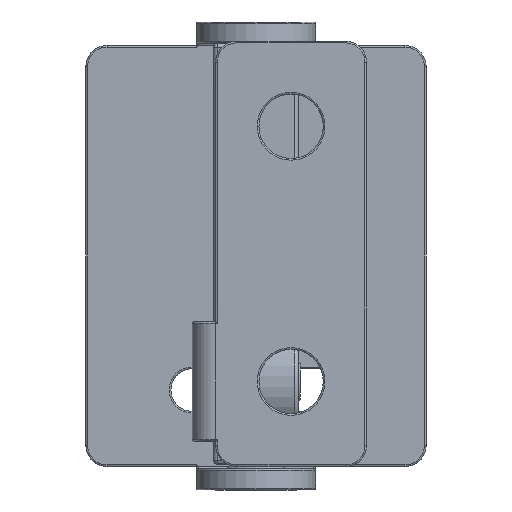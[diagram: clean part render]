
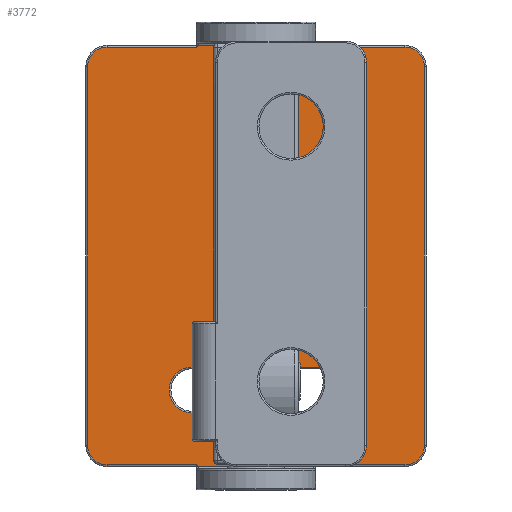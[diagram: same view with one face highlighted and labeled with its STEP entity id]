
A CAD part, front view. The second image highlights one B-rep face of the part: STEP entity #3772.
In plain terms, the highlighted planar face has unit normal (0, -1, 0).
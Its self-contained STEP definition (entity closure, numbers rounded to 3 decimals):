
#81=FACE_BOUND('',#577,.T.);
#82=FACE_BOUND('',#578,.T.);
#127=PLANE('',#4198);
#319=FACE_OUTER_BOUND('',#576,.T.);
#576=EDGE_LOOP('',(#2782,#2783,#2784,#2785,#2786,#2787,#2788,#2789,#2790,
#2791,#2792,#2793,#2794,#2795,#2796,#2797,#2798,#2799,#2800,#2801,#2802,
#2803,#2804,#2805));
#577=EDGE_LOOP('',(#2806,#2807,#2808,#2809));
#578=EDGE_LOOP('',(#2810,#2811,#2812,#2813));
#777=LINE('',#5957,#1036);
#780=LINE('',#5974,#1039);
#782=LINE('',#5987,#1041);
#786=LINE('',#6118,#1045);
#839=LINE('',#6321,#1098);
#842=LINE('',#6338,#1101);
#844=LINE('',#6351,#1103);
#847=LINE('',#6474,#1106);
#858=LINE('',#6564,#1117);
#860=LINE('',#6581,#1119);
#862=LINE('',#6588,#1121);
#864=LINE('',#6594,#1123);
#865=LINE('',#6596,#1124);
#866=LINE('',#6597,#1125);
#867=LINE('',#6599,#1126);
#868=LINE('',#6601,#1127);
#869=LINE('',#6603,#1128);
#870=LINE('',#6604,#1129);
#871=LINE('',#6607,#1130);
#872=LINE('',#6611,#1131);
#1036=VECTOR('',#4599,10.);
#1039=VECTOR('',#4618,10.);
#1041=VECTOR('',#4632,10.);
#1045=VECTOR('',#4648,10.);
#1098=VECTOR('',#4851,10.);
#1101=VECTOR('',#4870,10.);
#1103=VECTOR('',#4884,10.);
#1106=VECTOR('',#4899,10.);
#1117=VECTOR('',#4956,10.);
#1119=VECTOR('',#4976,10.);
#1121=VECTOR('',#4986,10.);
#1123=VECTOR('',#4994,10.);
#1124=VECTOR('',#4995,10.);
#1125=VECTOR('',#4996,10.);
#1126=VECTOR('',#4997,10.);
#1127=VECTOR('',#4998,10.);
#1128=VECTOR('',#4999,10.);
#1129=VECTOR('',#5000,10.);
#1130=VECTOR('',#5001,10.);
#1131=VECTOR('',#5004,10.);
#1300=CIRCLE('',#4050,2.3);
#1304=CIRCLE('',#4056,2.3);
#1307=CIRCLE('',#4060,0.2);
#1308=CIRCLE('',#4061,0.2);
#1361=CIRCLE('',#4145,2.3);
#1365=CIRCLE('',#4151,2.3);
#1368=CIRCLE('',#4155,0.2);
#1369=CIRCLE('',#4156,0.2);
#1385=CIRCLE('',#4187,2.7);
#1390=CIRCLE('',#4194,2.7);
#1391=CIRCLE('',#4199,2.7);
#1392=CIRCLE('',#4200,2.7);
#1582=VERTEX_POINT('',#5954);
#1583=VERTEX_POINT('',#5956);
#1586=VERTEX_POINT('',#5964);
#1588=VERTEX_POINT('',#5970);
#1590=VERTEX_POINT('',#5976);
#1594=VERTEX_POINT('',#5986);
#1595=VERTEX_POINT('',#5998);
#1596=VERTEX_POINT('',#6039);
#1603=VERTEX_POINT('',#6116);
#1677=VERTEX_POINT('',#6318);
#1678=VERTEX_POINT('',#6320);
#1681=VERTEX_POINT('',#6328);
#1683=VERTEX_POINT('',#6334);
#1685=VERTEX_POINT('',#6340);
#1689=VERTEX_POINT('',#6350);
#1690=VERTEX_POINT('',#6362);
#1691=VERTEX_POINT('',#6403);
#1695=VERTEX_POINT('',#6472);
#1703=VERTEX_POINT('',#6563);
#1707=VERTEX_POINT('',#6572);
#1708=VERTEX_POINT('',#6574);
#1709=VERTEX_POINT('',#6579);
#1710=VERTEX_POINT('',#6583);
#1711=VERTEX_POINT('',#6593);
#1712=VERTEX_POINT('',#6595);
#1713=VERTEX_POINT('',#6598);
#1714=VERTEX_POINT('',#6600);
#1715=VERTEX_POINT('',#6602);
#1716=VERTEX_POINT('',#6605);
#1717=VERTEX_POINT('',#6606);
#1718=VERTEX_POINT('',#6608);
#1719=VERTEX_POINT('',#6610);
#1908=EDGE_CURVE('',#1582,#1583,#777,.T.);
#1914=EDGE_CURVE('',#1583,#1586,#1300,.T.);
#1917=EDGE_CURVE('',#1586,#1588,#780,.T.);
#1920=EDGE_CURVE('',#1588,#1590,#1304,.T.);
#1923=EDGE_CURVE('',#1590,#1594,#782,.T.);
#1926=EDGE_CURVE('',#1595,#1582,#1307,.T.);
#1928=EDGE_CURVE('',#1594,#1596,#1308,.T.);
#1936=EDGE_CURVE('',#1595,#1603,#786,.T.);
#2035=EDGE_CURVE('',#1677,#1678,#839,.T.);
#2041=EDGE_CURVE('',#1678,#1681,#1361,.T.);
#2044=EDGE_CURVE('',#1681,#1683,#842,.T.);
#2047=EDGE_CURVE('',#1683,#1685,#1365,.T.);
#2050=EDGE_CURVE('',#1685,#1689,#844,.T.);
#2053=EDGE_CURVE('',#1690,#1677,#1368,.T.);
#2055=EDGE_CURVE('',#1689,#1691,#1369,.T.);
#2061=EDGE_CURVE('',#1690,#1695,#847,.T.);
#2083=EDGE_CURVE('',#1703,#1691,#858,.T.);
#2088=EDGE_CURVE('',#1707,#1708,#1385,.T.);
#2092=EDGE_CURVE('',#1708,#1709,#860,.T.);
#2094=EDGE_CURVE('',#1709,#1710,#1390,.T.);
#2096=EDGE_CURVE('',#1710,#1707,#862,.T.);
#2098=EDGE_CURVE('',#1711,#1603,#864,.T.);
#2099=EDGE_CURVE('',#1712,#1711,#865,.T.);
#2100=EDGE_CURVE('',#1703,#1712,#866,.T.);
#2101=EDGE_CURVE('',#1713,#1695,#867,.T.);
#2102=EDGE_CURVE('',#1714,#1713,#868,.T.);
#2103=EDGE_CURVE('',#1715,#1714,#869,.T.);
#2104=EDGE_CURVE('',#1715,#1596,#870,.T.);
#2105=EDGE_CURVE('',#1716,#1717,#871,.T.);
#2106=EDGE_CURVE('',#1718,#1716,#1391,.T.);
#2107=EDGE_CURVE('',#1719,#1718,#872,.T.);
#2108=EDGE_CURVE('',#1717,#1719,#1392,.T.);
#2782=ORIENTED_EDGE('',*,*,#1926,.F.);
#2783=ORIENTED_EDGE('',*,*,#1936,.T.);
#2784=ORIENTED_EDGE('',*,*,#2098,.F.);
#2785=ORIENTED_EDGE('',*,*,#2099,.F.);
#2786=ORIENTED_EDGE('',*,*,#2100,.F.);
#2787=ORIENTED_EDGE('',*,*,#2083,.T.);
#2788=ORIENTED_EDGE('',*,*,#2055,.F.);
#2789=ORIENTED_EDGE('',*,*,#2050,.F.);
#2790=ORIENTED_EDGE('',*,*,#2047,.F.);
#2791=ORIENTED_EDGE('',*,*,#2044,.F.);
#2792=ORIENTED_EDGE('',*,*,#2041,.F.);
#2793=ORIENTED_EDGE('',*,*,#2035,.F.);
#2794=ORIENTED_EDGE('',*,*,#2053,.F.);
#2795=ORIENTED_EDGE('',*,*,#2061,.T.);
#2796=ORIENTED_EDGE('',*,*,#2101,.F.);
#2797=ORIENTED_EDGE('',*,*,#2102,.F.);
#2798=ORIENTED_EDGE('',*,*,#2103,.F.);
#2799=ORIENTED_EDGE('',*,*,#2104,.T.);
#2800=ORIENTED_EDGE('',*,*,#1928,.F.);
#2801=ORIENTED_EDGE('',*,*,#1923,.F.);
#2802=ORIENTED_EDGE('',*,*,#1920,.F.);
#2803=ORIENTED_EDGE('',*,*,#1917,.F.);
#2804=ORIENTED_EDGE('',*,*,#1914,.F.);
#2805=ORIENTED_EDGE('',*,*,#1908,.F.);
#2806=ORIENTED_EDGE('',*,*,#2105,.F.);
#2807=ORIENTED_EDGE('',*,*,#2106,.F.);
#2808=ORIENTED_EDGE('',*,*,#2107,.F.);
#2809=ORIENTED_EDGE('',*,*,#2108,.F.);
#2810=ORIENTED_EDGE('',*,*,#2088,.F.);
#2811=ORIENTED_EDGE('',*,*,#2096,.F.);
#2812=ORIENTED_EDGE('',*,*,#2094,.F.);
#2813=ORIENTED_EDGE('',*,*,#2092,.F.);
#3772=ADVANCED_FACE('',(#319,#81,#82),#127,.F.);
#4050=AXIS2_PLACEMENT_3D('',#5968,#4611,#4612);
#4056=AXIS2_PLACEMENT_3D('',#5980,#4625,#4626);
#4060=AXIS2_PLACEMENT_3D('',#6029,#4635,#4636);
#4061=AXIS2_PLACEMENT_3D('',#6070,#4637,#4638);
#4145=AXIS2_PLACEMENT_3D('',#6332,#4863,#4864);
#4151=AXIS2_PLACEMENT_3D('',#6344,#4877,#4878);
#4155=AXIS2_PLACEMENT_3D('',#6393,#4887,#4888);
#4156=AXIS2_PLACEMENT_3D('',#6434,#4889,#4890);
#4187=AXIS2_PLACEMENT_3D('',#6575,#4966,#4967);
#4194=AXIS2_PLACEMENT_3D('',#6585,#4981,#4982);
#4198=AXIS2_PLACEMENT_3D('',#6592,#4992,#4993);
#4199=AXIS2_PLACEMENT_3D('',#6609,#5002,#5003);
#4200=AXIS2_PLACEMENT_3D('',#6612,#5005,#5006);
#4599=DIRECTION('',(1.,0.,0.));
#4611=DIRECTION('center_axis',(0.,1.,0.));
#4612=DIRECTION('ref_axis',(0.707,0.,0.707));
#4618=DIRECTION('',(0.,0.,-1.));
#4625=DIRECTION('center_axis',(0.,1.,0.));
#4626=DIRECTION('ref_axis',(0.707,0.,-0.707));
#4632=DIRECTION('',(-1.,0.,0.));
#4635=DIRECTION('center_axis',(0.,-1.,0.));
#4636=DIRECTION('ref_axis',(0.,0.,1.));
#4637=DIRECTION('center_axis',(0.,-1.,0.));
#4638=DIRECTION('ref_axis',(0.,0.,-1.));
#4648=DIRECTION('',(-1.,0.,0.));
#4851=DIRECTION('',(-1.,0.,0.));
#4863=DIRECTION('center_axis',(0.,1.,0.));
#4864=DIRECTION('ref_axis',(-0.707,0.,-0.707));
#4870=DIRECTION('',(0.,0.,1.));
#4877=DIRECTION('center_axis',(0.,1.,0.));
#4878=DIRECTION('ref_axis',(-0.707,0.,0.707));
#4884=DIRECTION('',(1.,0.,0.));
#4887=DIRECTION('center_axis',(0.,-1.,0.));
#4888=DIRECTION('ref_axis',(0.,0.,-1.));
#4889=DIRECTION('center_axis',(0.,-1.,0.));
#4890=DIRECTION('ref_axis',(0.,0.,1.));
#4899=DIRECTION('',(1.,0.,0.));
#4956=DIRECTION('',(-1.,0.,0.));
#4966=DIRECTION('center_axis',(0.,-1.,0.));
#4967=DIRECTION('ref_axis',(-1.,0.,0.));
#4976=DIRECTION('',(1.,0.,0.));
#4981=DIRECTION('center_axis',(0.,-1.,0.));
#4982=DIRECTION('ref_axis',(1.,0.,0.));
#4986=DIRECTION('',(-1.,0.,0.));
#4992=DIRECTION('center_axis',(0.,1.,0.));
#4993=DIRECTION('ref_axis',(0.,0.,1.));
#4994=DIRECTION('',(0.,0.,-1.));
#4995=DIRECTION('',(1.,0.,0.));
#4996=DIRECTION('',(0.,0.,1.));
#4997=DIRECTION('',(0.,0.,1.));
#4998=DIRECTION('',(-1.,0.,0.));
#4999=DIRECTION('',(0.,0.,-1.));
#5000=DIRECTION('',(1.,0.,0.));
#5001=DIRECTION('',(0.,0.,-1.));
#5002=DIRECTION('center_axis',(0.,-1.,0.));
#5003=DIRECTION('ref_axis',(0.,0.,1.));
#5004=DIRECTION('',(0.,0.,1.));
#5005=DIRECTION('center_axis',(0.,-1.,0.));
#5006=DIRECTION('ref_axis',(0.,0.,-1.));
#5954=CARTESIAN_POINT('',(7.01,0.,24.55));
#5956=CARTESIAN_POINT('',(17.5,0.,24.55));
#5957=CARTESIAN_POINT('',(-8.75,0.,24.55));
#5964=CARTESIAN_POINT('',(19.8,0.,22.25));
#5968=CARTESIAN_POINT('Origin',(17.5,0.,22.25));
#5970=CARTESIAN_POINT('',(19.8,0.,-22.25));
#5974=CARTESIAN_POINT('',(19.8,0.,11.125));
#5976=CARTESIAN_POINT('',(17.5,0.,-24.55));
#5980=CARTESIAN_POINT('Origin',(17.5,0.,-22.25));
#5986=CARTESIAN_POINT('',(7.01,0.,-24.55));
#5987=CARTESIAN_POINT('',(8.75,0.,-24.55));
#5998=CARTESIAN_POINT('',(6.81,0.,24.74));
#6029=CARTESIAN_POINT('Origin',(7.01,0.,24.75));
#6039=CARTESIAN_POINT('',(6.81,0.,-24.74));
#6070=CARTESIAN_POINT('Origin',(7.01,0.,-24.75));
#6116=CARTESIAN_POINT('',(6.8,0.,24.74));
#6118=CARTESIAN_POINT('',(3.5,0.,24.74));
#6318=CARTESIAN_POINT('',(-7.01,0.,-24.55));
#6320=CARTESIAN_POINT('',(-17.5,0.,-24.55));
#6321=CARTESIAN_POINT('',(8.75,0.,-24.55));
#6328=CARTESIAN_POINT('',(-19.8,0.,-22.25));
#6332=CARTESIAN_POINT('Origin',(-17.5,0.,-22.25));
#6334=CARTESIAN_POINT('',(-19.8,0.,22.25));
#6338=CARTESIAN_POINT('',(-19.8,0.,-11.125));
#6340=CARTESIAN_POINT('',(-17.5,0.,24.55));
#6344=CARTESIAN_POINT('Origin',(-17.5,0.,22.25));
#6350=CARTESIAN_POINT('',(-7.01,0.,24.55));
#6351=CARTESIAN_POINT('',(-8.75,0.,24.55));
#6362=CARTESIAN_POINT('',(-6.81,0.,-24.74));
#6393=CARTESIAN_POINT('Origin',(-7.01,0.,-24.75));
#6403=CARTESIAN_POINT('',(-6.81,0.,24.74));
#6434=CARTESIAN_POINT('Origin',(-7.01,0.,24.75));
#6472=CARTESIAN_POINT('',(-6.8,0.,-24.74));
#6474=CARTESIAN_POINT('',(-3.5,0.,-24.74));
#6563=CARTESIAN_POINT('',(-6.8,0.,24.74));
#6564=CARTESIAN_POINT('',(-3.505,0.,24.74));
#6572=CARTESIAN_POINT('',(-7.5,0.,-13.05));
#6574=CARTESIAN_POINT('',(-7.5,0.,-18.45));
#6575=CARTESIAN_POINT('Origin',(-7.5,0.,-15.75));
#6579=CARTESIAN_POINT('',(7.5,0.,-18.45));
#6581=CARTESIAN_POINT('',(-3.75,0.,-18.45));
#6583=CARTESIAN_POINT('',(7.5,0.,-13.05));
#6585=CARTESIAN_POINT('Origin',(7.5,0.,-15.75));
#6588=CARTESIAN_POINT('',(3.75,0.,-13.05));
#6592=CARTESIAN_POINT('Origin',(0.,0.,0.));
#6593=CARTESIAN_POINT('',(6.8,0.,24.75));
#6594=CARTESIAN_POINT('',(6.8,0.,12.375));
#6595=CARTESIAN_POINT('',(-6.8,0.,24.75));
#6596=CARTESIAN_POINT('',(-17.5,0.,24.75));
#6597=CARTESIAN_POINT('',(-6.8,0.,12.37));
#6598=CARTESIAN_POINT('',(-6.8,0.,-24.75));
#6599=CARTESIAN_POINT('',(-6.8,0.,-12.375));
#6600=CARTESIAN_POINT('',(6.8,0.,-24.75));
#6601=CARTESIAN_POINT('',(17.5,0.,-24.75));
#6602=CARTESIAN_POINT('',(6.8,0.,-24.74));
#6603=CARTESIAN_POINT('',(6.8,0.,-12.37));
#6604=CARTESIAN_POINT('',(3.505,0.,-24.74));
#6605=CARTESIAN_POINT('',(-2.7,0.,17.25));
#6606=CARTESIAN_POINT('',(-2.7,0.,2.25));
#6607=CARTESIAN_POINT('',(-2.7,0.,8.625));
#6608=CARTESIAN_POINT('',(2.7,0.,17.25));
#6609=CARTESIAN_POINT('Origin',(0.,0.,17.25));
#6610=CARTESIAN_POINT('',(2.7,0.,2.25));
#6611=CARTESIAN_POINT('',(2.7,0.,1.125));
#6612=CARTESIAN_POINT('Origin',(0.,0.,2.25));
